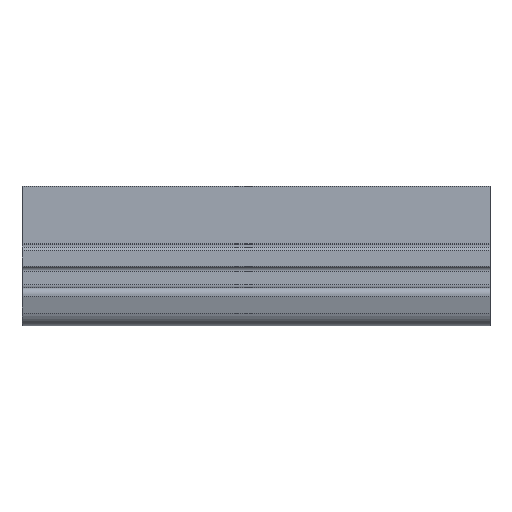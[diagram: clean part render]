
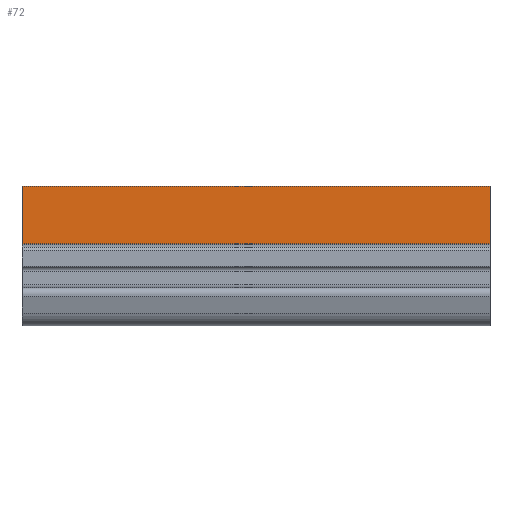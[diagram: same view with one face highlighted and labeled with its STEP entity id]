
A CAD part, left-side view. The second image highlights one B-rep face of the part: STEP entity #72.
In plain terms, the highlighted planar face has unit normal (-1, 0, 0).
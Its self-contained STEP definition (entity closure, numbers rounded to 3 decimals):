
#72=ADVANCED_FACE('',(#170),#171,.F.);
#170=FACE_OUTER_BOUND('',#291,.T.);
#171=PLANE('',#292);
#291=EDGE_LOOP('',(#463,#464,#465,#466));
#292=AXIS2_PLACEMENT_3D('',#467,#468,#469);
#463=ORIENTED_EDGE('',*,*,#809,.F.);
#464=ORIENTED_EDGE('',*,*,#807,.F.);
#465=ORIENTED_EDGE('',*,*,#797,.T.);
#466=ORIENTED_EDGE('',*,*,#810,.T.);
#467=CARTESIAN_POINT('',(-6.,50.0,8.6));
#468=DIRECTION('',(1.0,0.0,0.));
#469=DIRECTION('',(0.,0.0,1.0));
#797=EDGE_CURVE('',#980,#978,#981,.T.);
#807=EDGE_CURVE('',#980,#992,#994,.T.);
#809=EDGE_CURVE('',#992,#996,#997,.T.);
#810=EDGE_CURVE('',#978,#996,#998,.T.);
#978=VERTEX_POINT('',#1216);
#980=VERTEX_POINT('',#1218);
#981=LINE('',#1219,#1220);
#992=VERTEX_POINT('',#1235);
#994=LINE('',#1238,#1239);
#996=VERTEX_POINT('',#1241);
#997=LINE('',#1242,#1243);
#998=LINE('',#1244,#1245);
#1216=CARTESIAN_POINT('',(-6.,50.0,2.45));
#1218=CARTESIAN_POINT('',(-6.,50.0,8.6));
#1219=CARTESIAN_POINT('',(-6.,50.0,8.6));
#1220=VECTOR('',#1485,1.0);
#1235=CARTESIAN_POINT('',(-6.,0.0,8.6));
#1238=CARTESIAN_POINT('',(-6.,50.0,8.6));
#1239=VECTOR('',#1494,1.0);
#1241=CARTESIAN_POINT('',(-6.,0.0,2.45));
#1242=CARTESIAN_POINT('',(-6.,0.0,8.6));
#1243=VECTOR('',#1495,1.0);
#1244=CARTESIAN_POINT('',(-6.,50.0,2.45));
#1245=VECTOR('',#1496,1.0);
#1485=DIRECTION('',(0.,0.0,-1.0));
#1494=DIRECTION('',(0.0,-1.0,0.0));
#1495=DIRECTION('',(0.,0.0,-1.0));
#1496=DIRECTION('',(0.0,-1.0,0.0));
